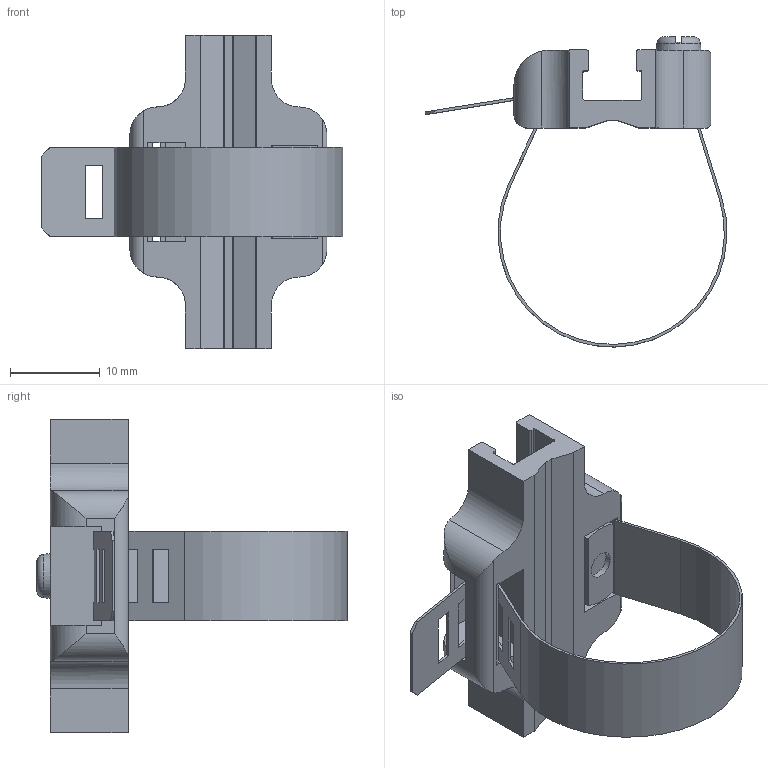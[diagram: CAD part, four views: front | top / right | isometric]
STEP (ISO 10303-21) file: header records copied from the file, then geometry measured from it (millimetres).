
FILE_DESCRIPTION( ( 'STEP AP214' ), ' ' );
FILE_NAME( 'p:/temp/worker_18/3356_840/app_44_02017120212592745745871192d056f_000000_00_00_000000/format_0/SICK BEF-KHZ-RT1-130-1-Bestell-Nr.2077684 (25).stp', '2017-12-02T11:59:27', ( '' ), ( '' ), ' ', 'PARTsolutions', ' ' );
FILE_SCHEMA( ( 'AUTOMOTIVE_DESIGN { 1 0 10303 214 1 1 1 1 }' ) );
Length unit declared in the file: millimetre
Products named in the file (1): _SICK BEF-KHZ-RT1-130-1-Bestell-Nr.2077684 (25)
Bounding box: 33.71 x 34.65 x 35 mm (x, y, z)
Volume: 3099.4 mm3; surface area: 4684.3 mm2
Topology: 1 solids, 1 shells, 136 faces, 395 edges, 260 vertices
Faces by surface type: plane 89, cylinder 45, cone 1, torus 1
Full cylindrical faces by diameter (mm): 3 x2, 3.2 x1
Entity records: 5660 total; most frequent: CARTESIAN_POINT 907, ORIENTED_EDGE 776, DIRECTION 740, EDGE_CURVE 388, LINE 282, VECTOR 282, VERTEX_POINT 258, AXIS2_PLACEMENT_3D 229
